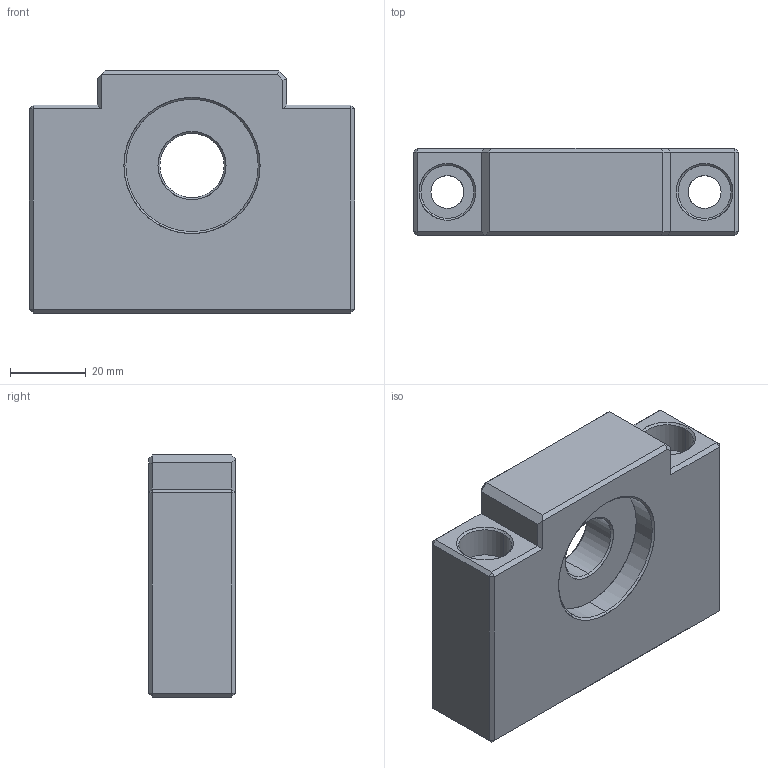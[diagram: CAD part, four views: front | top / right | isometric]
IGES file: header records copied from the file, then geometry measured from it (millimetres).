
Start section: SolidWorks IGES file using analytic representation for surfaces
Global section: file name: E:\同创达图纸\产品示意图\3D选型图\支撑座\BF系列\BF17.IGS; native system: SolidWorks 2012; preprocessor: SolidWorks 2012; author: gao; date: 130702.152326; units: millimetre
Bounding box: 86 x 23 x 64 mm (x, y, z)
Surface area: 21223.5 mm2 (no closed solid volume)
Topology: 0 solids, 0 shells, 77 faces, 872 edges, 872 vertices
Faces by surface type: bspline 47, revolution 30
